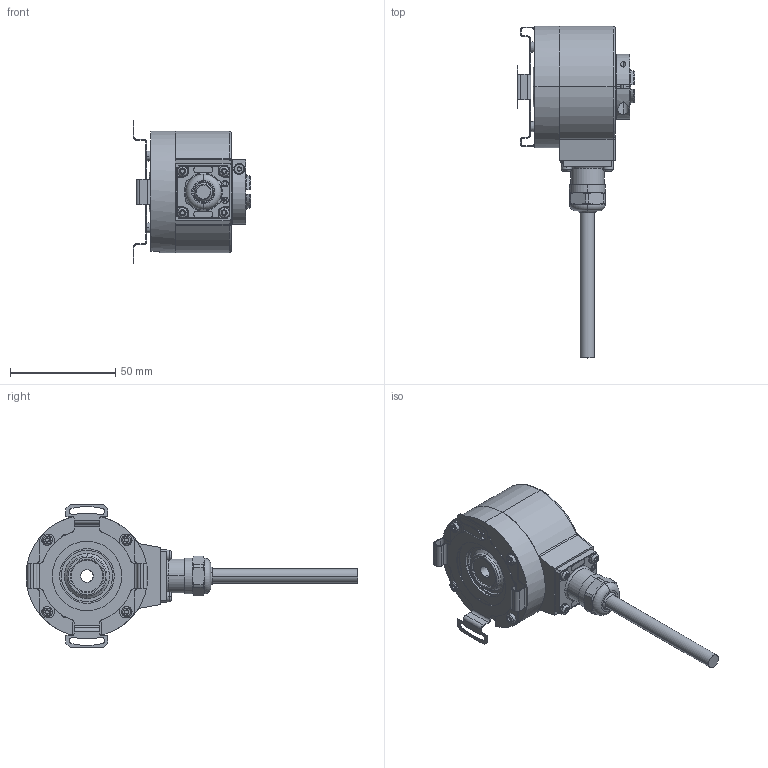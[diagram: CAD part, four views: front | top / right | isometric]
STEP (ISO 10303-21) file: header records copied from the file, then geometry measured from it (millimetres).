
FILE_DESCRIPTION (( 'STEP AP203' ), '1' );
FILE_NAME ('K58I.OXX.XXXXX.XC22506.6XR11.XXXX.step', '2025-12-08T12:08:28', ( '' ), ( '' ), 'SwSTEP 2.0', 'SolidWorks 2021', '' );
FILE_SCHEMA (( 'CONFIG_CONTROL_DESIGN' ));
Length unit declared in the file: millimetre
Products named in the file (1): K58I.OXX.XXXXX.XC22506.6XR11.XXXX
Bounding box: 56.09 x 158 x 68 mm (x, y, z)
Volume: 118386.6 mm3; surface area: 45081.3 mm2
Topology: 11 solids, 11 shells, 929 faces, 2342 edges, 1458 vertices
Faces by surface type: cylinder 424, plane 314, cone 85, torus 50, bspline 40, sphere 16
Entity records: 29938 total; most frequent: CARTESIAN_POINT 7344, DIRECTION 4927, ORIENTED_EDGE 4656, EDGE_CURVE 2328, AXIS2_PLACEMENT_3D 1911, VERTEX_POINT 1458, LINE 1105, VECTOR 1105
